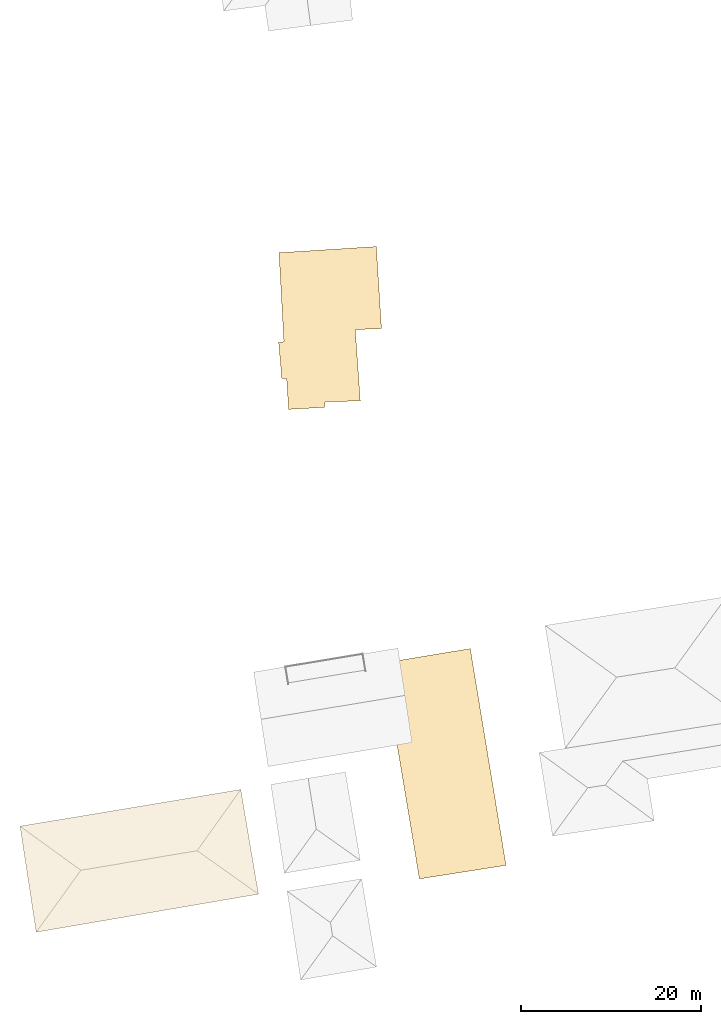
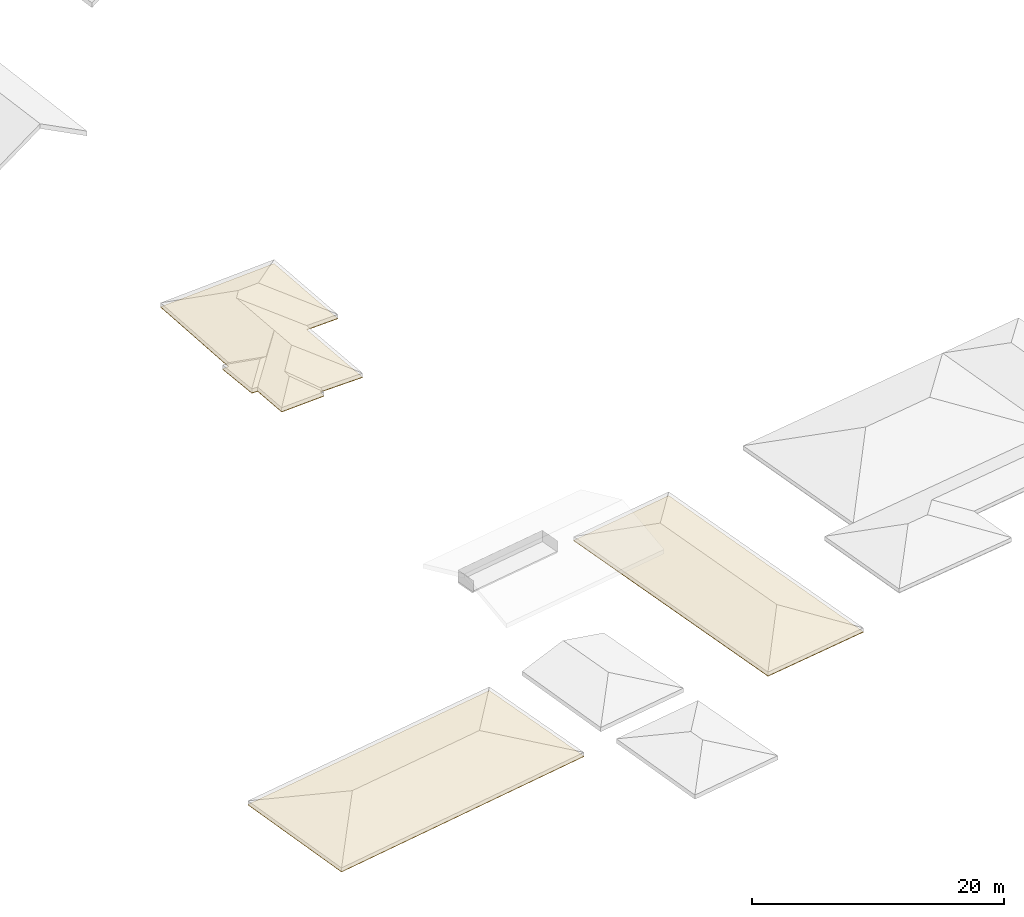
# One storey, part 4 of 5: 3 coverings.
"""IFC2X3 building model written with IfcOpenShell, lengths in metres."""

from ifc_helpers import new_model, entity, si_unit, converted_unit, derived_unit, direction, frame, origin, place, context, subcontext, project, spatial, polyline, outline, extrude, material, layer, layer_set, layer_usage, type_object, element, save


model = new_model("IFC2X3")

# Units and contexts
model_context = context("Model", 3, precision=1e-05, world=origin(), true_north=direction((6.123031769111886e-17, 1.0)))
body_context = subcontext(model_context, "Body", "Model", "MODEL_VIEW")
ifc_project = project(units=[si_unit("LENGTHUNIT", "METRE"), si_unit("AREAUNIT", "SQUARE_METRE"), si_unit("VOLUMEUNIT", "CUBIC_METRE"), converted_unit("PLANEANGLEUNIT", "DEGREE", entity("IfcRatioMeasure", 0.017453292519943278), si_unit("PLANEANGLEUNIT", "RADIAN"), dimensions=[0, 0, 0, 0, 0, 0, 0]), si_unit("MASSUNIT", "GRAM", prefix="KILO"), derived_unit("MASSDENSITYUNIT", [(si_unit("MASSUNIT", "GRAM", prefix="KILO"), 1), (si_unit("LENGTHUNIT", "METRE"), -3)]), derived_unit("IONCONCENTRATIONUNIT", [(si_unit("MASSUNIT", "GRAM", prefix="KILO"), 1), (si_unit("LENGTHUNIT", "METRE"), -3)]), derived_unit("MOMENTOFINERTIAUNIT", [(si_unit("LENGTHUNIT", "METRE"), 4)]), si_unit("TIMEUNIT", "SECOND"), si_unit("FREQUENCYUNIT", "HERTZ"), si_unit("THERMODYNAMICTEMPERATUREUNIT", "DEGREE_CELSIUS"), derived_unit("THERMALTRANSMITTANCEUNIT", [(si_unit("MASSUNIT", "GRAM", prefix="KILO"), 1), (si_unit("THERMODYNAMICTEMPERATUREUNIT", "KELVIN"), -1), (si_unit("TIMEUNIT", "SECOND"), -3)]), derived_unit("THERMALCONDUCTANCEUNIT", [(si_unit("MASSUNIT", "GRAM", prefix="KILO"), 1), (si_unit("THERMODYNAMICTEMPERATUREUNIT", "KELVIN"), -1), (si_unit("TIMEUNIT", "SECOND"), -3), (si_unit("LENGTHUNIT", "METRE"), 1)]), derived_unit("VOLUMETRICFLOWRATEUNIT", [(si_unit("LENGTHUNIT", "METRE"), 3), (si_unit("TIMEUNIT", "SECOND"), -1)]), derived_unit("MASSFLOWRATEUNIT", [(si_unit("MASSUNIT", "GRAM", prefix="KILO"), 1), (si_unit("TIMEUNIT", "SECOND"), -1)]), derived_unit("ROTATIONALFREQUENCYUNIT", [(si_unit("TIMEUNIT", "SECOND"), -1)]), si_unit("ELECTRICCURRENTUNIT", "AMPERE"), si_unit("ELECTRICVOLTAGEUNIT", "VOLT"), si_unit("POWERUNIT", "WATT"), si_unit("FORCEUNIT", "NEWTON", prefix="KILO"), si_unit("ILLUMINANCEUNIT", "LUX"), si_unit("LUMINOUSFLUXUNIT", "LUMEN"), si_unit("LUMINOUSINTENSITYUNIT", "CANDELA"), derived_unit("USERDEFINED", [(si_unit("MASSUNIT", "GRAM", prefix="KILO"), -1), (si_unit("LENGTHUNIT", "METRE"), -2), (si_unit("TIMEUNIT", "SECOND"), 3), (si_unit("LUMINOUSFLUXUNIT", "LUMEN"), 1)]), derived_unit("USERDEFINED", [(si_unit("MASSUNIT", "GRAM", prefix="KILO"), 1), (si_unit("TIMEUNIT", "SECOND"), -3), (si_unit("LENGTHUNIT", "METRE"), 3), (si_unit("ELECTRICCURRENTUNIT", "AMPERE"), -2)]), derived_unit("SOUNDPOWERUNIT", [(si_unit("MASSUNIT", "GRAM", prefix="KILO"), 1), (si_unit("TIMEUNIT", "SECOND"), -3), (si_unit("LENGTHUNIT", "METRE"), 2)]), derived_unit("SOUNDPRESSUREUNIT", [(si_unit("MASSUNIT", "GRAM", prefix="KILO"), 1), (si_unit("LENGTHUNIT", "METRE"), -1), (si_unit("TIMEUNIT", "SECOND"), -2)]), derived_unit("LINEARVELOCITYUNIT", [(si_unit("LENGTHUNIT", "METRE"), 1), (si_unit("TIMEUNIT", "SECOND"), -1)]), si_unit("PRESSUREUNIT", "PASCAL"), derived_unit("USERDEFINED", [(si_unit("MASSUNIT", "GRAM", prefix="KILO"), 1), (si_unit("LENGTHUNIT", "METRE"), -2), (si_unit("TIMEUNIT", "SECOND"), -2)]), derived_unit("LINEARFORCEUNIT", [(si_unit("MASSUNIT", "GRAM", prefix="KILO"), 1), (si_unit("TIMEUNIT", "SECOND"), -2)]), derived_unit("PLANARFORCEUNIT", [(si_unit("MASSUNIT", "GRAM", prefix="KILO"), 1), (si_unit("LENGTHUNIT", "METRE"), -1), (si_unit("TIMEUNIT", "SECOND"), -2)]), derived_unit("SPECIFICHEATCAPACITYUNIT", [(si_unit("THERMODYNAMICTEMPERATUREUNIT", "KELVIN"), -1), (si_unit("LENGTHUNIT", "METRE"), 2), (si_unit("TIMEUNIT", "SECOND"), -2)]), derived_unit("HEATINGVALUEUNIT", [(si_unit("LENGTHUNIT", "METRE"), 2), (si_unit("TIMEUNIT", "SECOND"), -2)]), derived_unit("VAPORPERMEABILITYUNIT", [(si_unit("LENGTHUNIT", "METRE"), -1), (si_unit("TIMEUNIT", "SECOND"), 1)]), derived_unit("DYNAMICVISCOSITYUNIT", [(si_unit("MASSUNIT", "GRAM", prefix="KILO"), 1), (si_unit("TIMEUNIT", "SECOND"), -1), (si_unit("LENGTHUNIT", "METRE"), -1)]), derived_unit("THERMALEXPANSIONCOEFFICIENTUNIT", [(si_unit("THERMODYNAMICTEMPERATUREUNIT", "KELVIN"), -1)]), derived_unit("MODULUSOFELASTICITYUNIT", [(si_unit("MASSUNIT", "GRAM", prefix="KILO"), 1), (si_unit("LENGTHUNIT", "METRE"), -1), (si_unit("TIMEUNIT", "SECOND"), -2)]), derived_unit("ISOTHERMALMOISTURECAPACITYUNIT", [(si_unit("LENGTHUNIT", "METRE"), 3), (si_unit("MASSUNIT", "GRAM", prefix="KILO"), -1)]), derived_unit("MOISTUREDIFFUSIVITYUNIT", [(si_unit("TIMEUNIT", "SECOND"), -1), (si_unit("LENGTHUNIT", "METRE"), 2)])], contexts=[model_context])

# Site, building, storey
site_placement = place(None, origin())
site = spatial("IfcSite", under=ifc_project, at=site_placement, Name="Default", CompositionType="ELEMENT")
building_placement = place(site_placement, origin())
building = spatial("IfcBuilding", under=site, at=building_placement, Name="Projeto", CompositionType="ELEMENT")
storey_placement = place(building_placement, frame((0.0, 0.0, 3.0)))
storey = spatial("IfcBuildingStorey", under=building, at=storey_placement, Name="Segundo Pavimento", CompositionType="ELEMENT", Elevation=3.0000000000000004)

# Coverings
ifc_material_1 = material(Name="Camada de suporte de metal")
ifc_layer_1 = layer(ifc_material_1, 0.045)
ifc_material_2 = material(Name="Placa de gesso de parede")
ifc_layer_2 = layer(ifc_material_2, 0.011999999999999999)
ifc_layer_set = layer_set([ifc_layer_1, ifc_layer_2], Name="Forro composto:Plano")
ifc_layer_usage = layer_usage(ifc_layer_set, "AXIS3", "POSITIVE", 0.0)
covering_type = type_object("IfcCoveringType", Name="Forro composto:Plano", PredefinedType="CEILING")
covering_1_placement = place(storey_placement, origin())
element("IfcCovering", 1, at=covering_1_placement, inside=storey, type_object=covering_type, material=ifc_layer_usage, Name="Forro composto:Plano", ObjectType="Forro composto:Plano", PredefinedType="CEILING", context=body_context, shape_type="SweptSolid", body=[
    extrude(outline(polyline([(-7.144736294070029, -11.215984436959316), (3.683518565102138, -11.215984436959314), (3.7616935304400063, -1.3257040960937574), (4.348883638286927, -1.3191138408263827), (4.252133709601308, 2.7191566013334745), (3.7209718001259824, 2.7750373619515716), (3.7152512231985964, 6.204062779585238), (-0.29287956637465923, 6.235110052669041), (-0.37654023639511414, 5.617017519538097), (-4.287443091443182, 5.775468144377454), (-4.233525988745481, -2.161083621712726), (-7.147327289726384, -2.0879820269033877), (-7.144736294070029, -11.215984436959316)])), frame((-43.67661896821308, -8.7817181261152, 0.0), z_axis=(0.0, 0.0, 1.0), x_axis=(-0.9980031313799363, -0.06316446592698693, 0.0)), (0.0, 0.0, 1.0), 0.05700000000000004),
])
covering_2_placement = place(storey_placement, origin())
element("IfcCovering", 2, at=covering_2_placement, inside=storey, type_object=covering_type, material=ifc_layer_usage, Name="Forro composto:Plano", ObjectType="Forro composto:Plano", PredefinedType="CEILING", context=body_context, shape_type="SweptSolid", body=[
    extrude(outline(polyline([(-4.883342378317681, -12.170396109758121), (4.8828521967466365, -12.170396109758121), (4.870604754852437, 12.129350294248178), (-4.870114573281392, 12.211441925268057), (-4.883342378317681, -12.170396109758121)])), frame((-29.6535303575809, -54.56012321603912, 0.9), z_axis=(0.0, 0.0, 1.0), x_axis=(-0.9865877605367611, -0.16323170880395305, 0.0)), (0.0, 0.0, 1.0), 0.05700000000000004),
])
covering_3_placement = place(storey_placement, origin())
element("IfcCovering", 3, at=covering_3_placement, inside=storey, type_object=covering_type, material=ifc_layer_usage, Name="Forro composto:Plano", ObjectType="Forro composto:Plano", PredefinedType="CEILING", context=body_context, shape_type="SweptSolid", body=[
    extrude(outline(polyline([(-5.7539357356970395, -12.466934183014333), (6.151938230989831, -12.466934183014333), (5.69421039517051, 12.563397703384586), (-6.092212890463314, 12.37047066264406), (-5.7539357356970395, -12.466934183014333)])), frame((-63.6075837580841, -65.2766699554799, 0.4), z_axis=(0.0, 0.0, 1.0), x_axis=(0.15068406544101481, -0.9885819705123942, 0.0)), (0.0, 0.0, 1.0), 0.057000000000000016),
])

save(model, "model.ifc")
